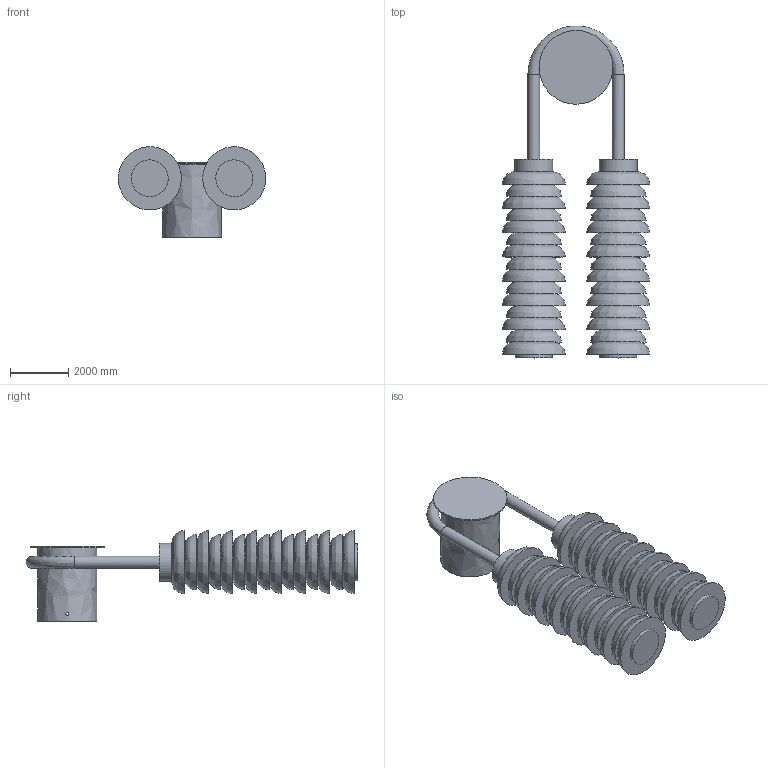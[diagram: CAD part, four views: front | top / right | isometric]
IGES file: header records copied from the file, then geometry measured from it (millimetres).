
Global section: file name: Payson Alabaster Wall Lamp; native system: AutoCAD 2022 - 简体中文 (Simplified Chinese),62HAuto; preprocessor: desk Translation Framework DWG producer (atf_dwg_producer); organization: unknown; date: 20260105.164922; units: inch
Bounding box: 5080.05 x 11430 x 3118.29 mm (x, y, z)
Volume: 38614015892.3 mm3; surface area: 319942963.4 mm2
Topology: 37 solids, 37 shells, 120 faces, 209 edges, 162 vertices
Faces by surface type: bspline 120
